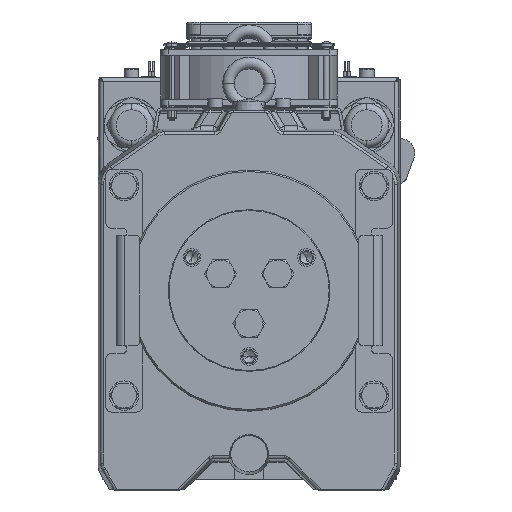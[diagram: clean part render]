
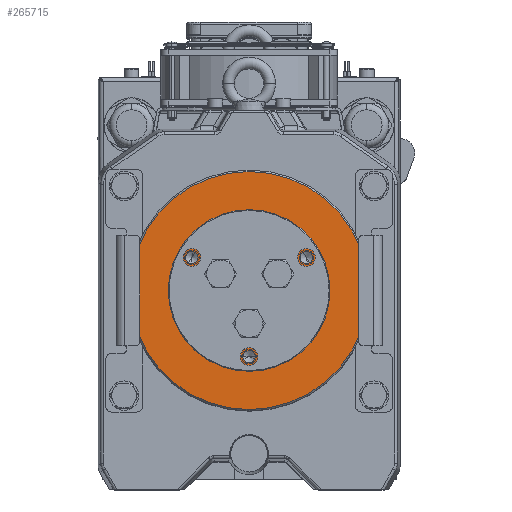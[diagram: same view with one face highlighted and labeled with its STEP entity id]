
A CAD part, top view. The second image highlights one B-rep face of the part: STEP entity #265715.
In plain terms, the highlighted planar face has unit normal (0, 0, 1) as drawn and (0, 0, -1) by its records, which use the part's own axes.
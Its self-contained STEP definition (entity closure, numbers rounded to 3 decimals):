
#265230=CARTESIAN_POINT('',(0.,0.,-40.5));
#265231=DIRECTION('',(0.,0.,1.));
#265232=DIRECTION('',(0.,1.,0.));
#265233=AXIS2_PLACEMENT_3D('',#265230,#265231,#265232);
#265235=CARTESIAN_POINT('',(0.,0.,-40.5));
#265236=DIRECTION('',(0.,0.,1.));
#265237=DIRECTION('',(0.,-1.,0.));
#265238=AXIS2_PLACEMENT_3D('',#265235,#265236,#265237);
#265240=CARTESIAN_POINT('',(38.971,22.5,-40.5));
#265241=DIRECTION('',(0.,0.,-1.));
#265242=DIRECTION('',(-0.5,0.866,0.));
#265243=AXIS2_PLACEMENT_3D('',#265240,#265241,#265242);
#265245=CARTESIAN_POINT('',(38.971,22.5,-40.5));
#265246=DIRECTION('',(0.,0.,-1.));
#265247=DIRECTION('',(0.5,-0.866,0.));
#265248=AXIS2_PLACEMENT_3D('',#265245,#265246,#265247);
#265250=CARTESIAN_POINT('',(-38.971,22.5,-40.5));
#265251=DIRECTION('',(0.,0.,-1.));
#265252=DIRECTION('',(-0.5,-0.866,0.));
#265253=AXIS2_PLACEMENT_3D('',#265250,#265251,#265252);
#265255=CARTESIAN_POINT('',(-38.971,22.5,-40.5));
#265256=DIRECTION('',(0.,0.,-1.));
#265257=DIRECTION('',(0.5,0.866,0.));
#265258=AXIS2_PLACEMENT_3D('',#265255,#265256,#265257);
#265260=CARTESIAN_POINT('',(0.,-45.,-40.5));
#265261=DIRECTION('',(0.,0.,-1.));
#265262=DIRECTION('',(1.,0.,0.));
#265263=AXIS2_PLACEMENT_3D('',#265260,#265261,#265262);
#265265=CARTESIAN_POINT('',(0.,-45.,-40.5));
#265266=DIRECTION('',(0.,0.,-1.));
#265267=DIRECTION('',(-1.,0.,0.));
#265268=AXIS2_PLACEMENT_3D('',#265265,#265266,#265267);
#265270=CARTESIAN_POINT('',(0.,0.,-40.5));
#265271=DIRECTION('',(0.,0.,-1.));
#265272=DIRECTION('',(0.27,0.963,0.));
#265273=AXIS2_PLACEMENT_3D('',#265270,#265271,#265272);
#265275=CARTESIAN_POINT('',(0.,0.,-40.5));
#265276=DIRECTION('',(0.,0.,-1.));
#265277=DIRECTION('',(0.,-1.,0.));
#265278=AXIS2_PLACEMENT_3D('',#265275,#265276,#265277);
#265383=CARTESIAN_POINT('',(-10.,35.623,
-40.5));
#265385=CARTESIAN_POINT('',(10.,35.623,
-40.5));
#265400=DIRECTION('',(0.,1.,0.));
#265401=VECTOR('',#265400,8.177);
#265402=CARTESIAN_POINT('',(10.,35.623,
-40.5));
#265403=LINE('',#265402,#265401);
#265404=DIRECTION('',(-1.,0.,0.));
#265405=VECTOR('',#265404,20.);
#265406=CARTESIAN_POINT('',(10.,43.8,-40.5));
#265407=LINE('',#265406,#265405);
#265416=DIRECTION('',(0.,-1.,0.));
#265417=VECTOR('',#265416,8.177);
#265418=CARTESIAN_POINT('',(-10.,43.8,-40.5));
#265419=LINE('',#265418,#265417);
#265498=VERTEX_POINT('',#265385);
#265500=CARTESIAN_POINT('',(10.,43.8,-40.5));
#265501=VERTEX_POINT('',#265500);
#265511=VERTEX_POINT('',#265383);
#265512=CARTESIAN_POINT('',(0.,-37.,-40.5));
#265513=VERTEX_POINT('',#265512);
#265522=CARTESIAN_POINT('',(-10.,43.8,-40.5));
#265523=VERTEX_POINT('',#265522);
#265524=CARTESIAN_POINT('',(0.,81.,-40.5));
#265525=CARTESIAN_POINT('',(0.,-81.,-40.5));
#265526=VERTEX_POINT('',#265524);
#265527=VERTEX_POINT('',#265525);
#265528=CARTESIAN_POINT('',(36.846,26.181,-40.5));
#265529=CARTESIAN_POINT('',(41.096,18.819,-40.5));
#265530=VERTEX_POINT('',#265528);
#265531=VERTEX_POINT('',#265529);
#265532=CARTESIAN_POINT('',(-41.096,18.819,-40.5));
#265533=CARTESIAN_POINT('',(-36.846,26.181,-40.5));
#265534=VERTEX_POINT('',#265532);
#265535=VERTEX_POINT('',#265533);
#265536=CARTESIAN_POINT('',(4.25,-45.,-40.5));
#265537=CARTESIAN_POINT('',(-4.25,-45.,-40.5));
#265538=VERTEX_POINT('',#265536);
#265539=VERTEX_POINT('',#265537);
#265676=CARTESIAN_POINT('',(0.,0.,-40.5));
#265677=DIRECTION('',(0.,0.,1.));
#265678=DIRECTION('',(0.,1.,0.));
#265679=AXIS2_PLACEMENT_3D('',#265676,#265677,#265678);
#265680=PLANE('',#265679);
#265681=ORIENTED_EDGE('',*,*,#265656,.T.);
#265682=ORIENTED_EDGE('',*,*,#265670,.T.);
#265683=EDGE_LOOP('',(#265681,#265682));
#265684=FACE_OUTER_BOUND('',#265683,.F.);
#265686=ORIENTED_EDGE('',*,*,#265685,.T.);
#265688=ORIENTED_EDGE('',*,*,#265687,.T.);
#265689=EDGE_LOOP('',(#265686,#265688));
#265690=FACE_BOUND('',#265689,.F.);
#265692=ORIENTED_EDGE('',*,*,#265691,.T.);
#265694=ORIENTED_EDGE('',*,*,#265693,.T.);
#265695=EDGE_LOOP('',(#265692,#265694));
#265696=FACE_BOUND('',#265695,.F.);
#265698=ORIENTED_EDGE('',*,*,#265697,.T.);
#265700=ORIENTED_EDGE('',*,*,#265699,.T.);
#265701=EDGE_LOOP('',(#265698,#265700));
#265702=FACE_BOUND('',#265701,.F.);
#265704=ORIENTED_EDGE('',*,*,#265703,.T.);
#265706=ORIENTED_EDGE('',*,*,#265705,.T.);
#265708=ORIENTED_EDGE('',*,*,#265707,.F.);
#265710=ORIENTED_EDGE('',*,*,#265709,.F.);
#265712=ORIENTED_EDGE('',*,*,#265711,.F.);
#265713=EDGE_LOOP('',(#265704,#265706,#265708,#265710,#265712));
#265714=FACE_BOUND('',#265713,.F.);
#265715=ADVANCED_FACE('',(#265684,#265690,#265696,#265702,#265714),#265680,.F.);
#265234=CIRCLE('',#265233,81.);
#265239=CIRCLE('',#265238,81.);
#265244=CIRCLE('',#265243,4.25);
#265249=CIRCLE('',#265248,4.25);
#265254=CIRCLE('',#265253,4.25);
#265259=CIRCLE('',#265258,4.25);
#265264=CIRCLE('',#265263,4.25);
#265269=CIRCLE('',#265268,4.25);
#265274=CIRCLE('',#265273,37.);
#265279=CIRCLE('',#265278,37.);
#265656=EDGE_CURVE('',#265526,#265527,#265234,.T.);
#265670=EDGE_CURVE('',#265527,#265526,#265239,.T.);
#265685=EDGE_CURVE('',#265530,#265531,#265244,.T.);
#265687=EDGE_CURVE('',#265531,#265530,#265249,.T.);
#265691=EDGE_CURVE('',#265534,#265535,#265254,.T.);
#265693=EDGE_CURVE('',#265535,#265534,#265259,.T.);
#265697=EDGE_CURVE('',#265538,#265539,#265264,.T.);
#265699=EDGE_CURVE('',#265539,#265538,#265269,.T.);
#265703=EDGE_CURVE('',#265498,#265513,#265274,.T.);
#265705=EDGE_CURVE('',#265513,#265511,#265279,.T.);
#265707=EDGE_CURVE('',#265523,#265511,#265419,.T.);
#265709=EDGE_CURVE('',#265501,#265523,#265407,.T.);
#265711=EDGE_CURVE('',#265498,#265501,#265403,.T.);
